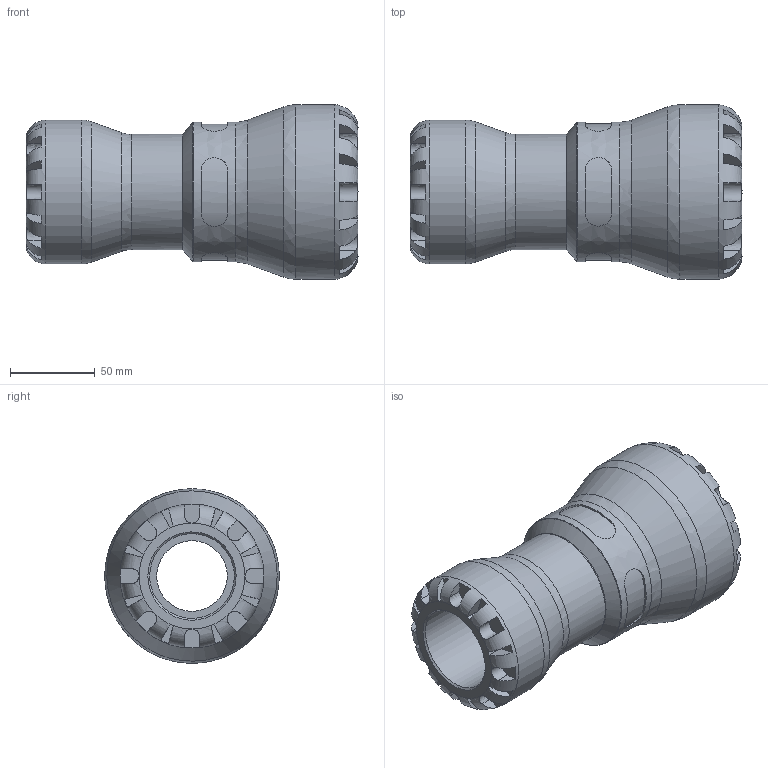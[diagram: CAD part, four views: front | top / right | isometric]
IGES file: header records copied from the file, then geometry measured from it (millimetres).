
Global section: file name: 151100063050; native system: Autodesk Inventor 2019; preprocessor: unknown; author: KIM; date: 20231017.194540; units: millimetre
Bounding box: 196 x 103 x 102.96 mm (x, y, z)
Volume: 607492.1 mm3; surface area: 102093.4 mm2
Topology: 1 solids, 1 shells, 172 faces, 465 edges, 300 vertices
Faces by surface type: bspline 172
